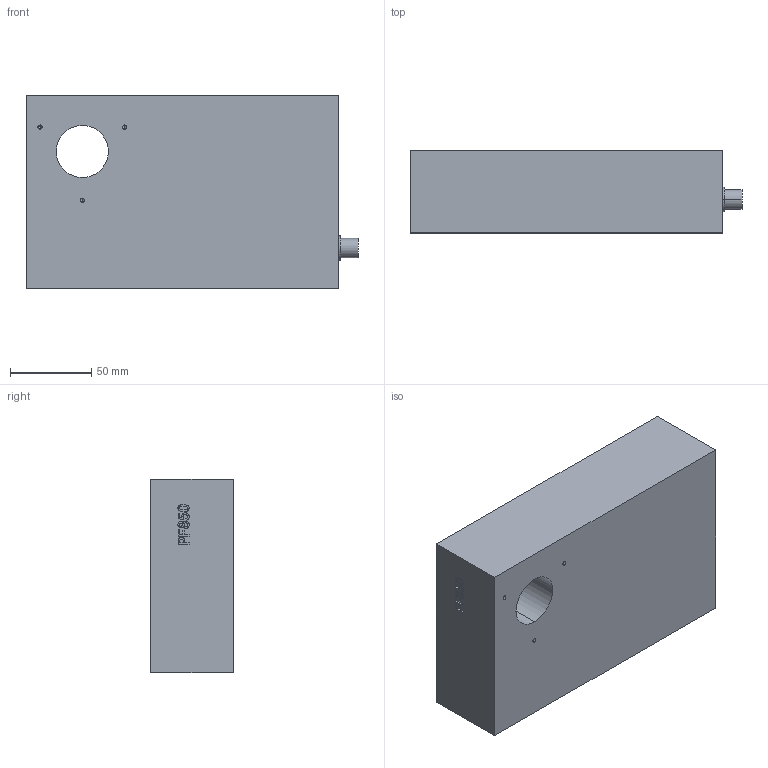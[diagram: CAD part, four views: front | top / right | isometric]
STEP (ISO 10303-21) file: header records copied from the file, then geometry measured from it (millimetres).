
FILE_DESCRIPTION (( 'STEP AP203' ), '1' );
FILE_NAME ('2-PF850.STEP', '2022-08-10T07:35:50', ( '' ), ( '' ), 'SwSTEP 2.0', 'SolidWorks 2018', '' );
FILE_SCHEMA (( 'CONFIG_CONTROL_DESIGN' ));
Length unit declared in the file: millimetre
Products named in the file (1): 2-PF850
Bounding box: 204 x 50.5 x 119 mm (x, y, z)
Volume: 1114408.7 mm3; surface area: 81469 mm2
Topology: 1 solids, 1 shells, 101 faces, 240 edges, 146 vertices
Faces by surface type: plane 40, cone 24, bspline 19, cylinder 18
Entity records: 5081 total; most frequent: CARTESIAN_POINT 2823, ORIENTED_EDGE 456, DIRECTION 404, EDGE_CURVE 228, VERTEX_POINT 146, LINE 142, VECTOR 142, AXIS2_PLACEMENT_3D 131
